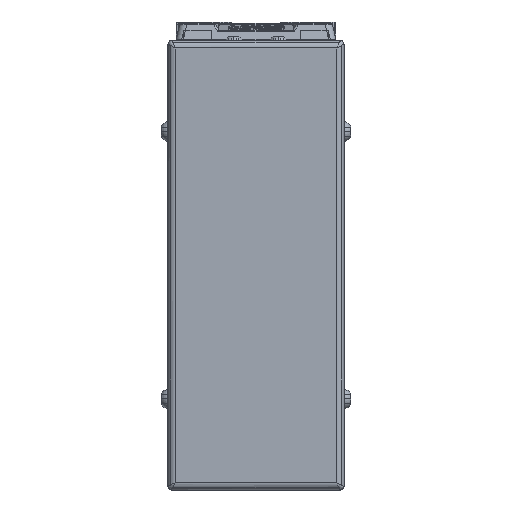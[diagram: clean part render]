
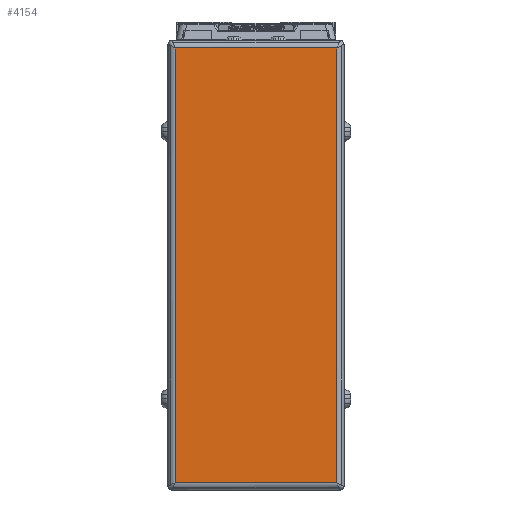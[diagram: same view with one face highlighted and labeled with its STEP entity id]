
A CAD part, left-side view. The second image highlights one B-rep face of the part: STEP entity #4154.
In plain terms, the highlighted planar face has unit normal (-1, 0, 0).
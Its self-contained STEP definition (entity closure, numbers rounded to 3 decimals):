
#4154=ADVANCED_FACE('',(#8906),#8907,.T.);
#8906=FACE_OUTER_BOUND('',#16329,.T.);
#8907=PLANE('',#16330);
#16329=EDGE_LOOP('',(#29233,#29234,#29235,#29236));
#16330=AXIS2_PLACEMENT_3D('',#29237,#29238,#29239);
#29233=ORIENTED_EDGE('',*,*,#35565,.F.);
#29234=ORIENTED_EDGE('',*,*,#38553,.F.);
#29235=ORIENTED_EDGE('',*,*,#39454,.F.);
#29236=ORIENTED_EDGE('',*,*,#37472,.F.);
#29237=CARTESIAN_POINT('',(-48.,0.,-42.5));
#29238=DIRECTION('',(-1.0,0.,0.));
#29239=DIRECTION('',(0.,0.,1.0));
#35565=EDGE_CURVE('',#42158,#42160,#42161,.T.);
#37472=EDGE_CURVE('',#42160,#44466,#45207,.T.);
#38553=EDGE_CURVE('',#42835,#42158,#46748,.T.);
#39454=EDGE_CURVE('',#44466,#42835,#47972,.T.);
#42158=VERTEX_POINT('',#51511);
#42160=VERTEX_POINT('',#51513);
#42161=LINE('',#51514,#51515);
#42835=VERTEX_POINT('',#52451);
#44466=VERTEX_POINT('',#54661);
#45207=LINE('',#55842,#55843);
#46748=LINE('',#57959,#57960);
#47972=LINE('',#59664,#59665);
#51511=CARTESIAN_POINT('',(-48.,21.7,16.));
#51513=CARTESIAN_POINT('',(-48.,-21.7,16.));
#51514=CARTESIAN_POINT('',(-48.,0.,16.));
#51515=VECTOR('',#63994,10.0);
#52451=CARTESIAN_POINT('',(-48.,21.7,-101.0));
#54661=CARTESIAN_POINT('',(-48.,-21.7,-101.0));
#55842=CARTESIAN_POINT('',(-48.,-21.7,-42.5));
#55843=VECTOR('',#66489,10.0);
#57959=CARTESIAN_POINT('',(-48.,21.7,-42.5));
#57960=VECTOR('',#67845,10.0);
#59664=CARTESIAN_POINT('',(-48.,0.,-101.0));
#59665=VECTOR('',#68825,10.0);
#63994=DIRECTION('',(0.,-1.0,0.));
#66489=DIRECTION('',(0.,0.,-1.0));
#67845=DIRECTION('',(0.,0.,1.0));
#68825=DIRECTION('',(0.,1.0,0.));
